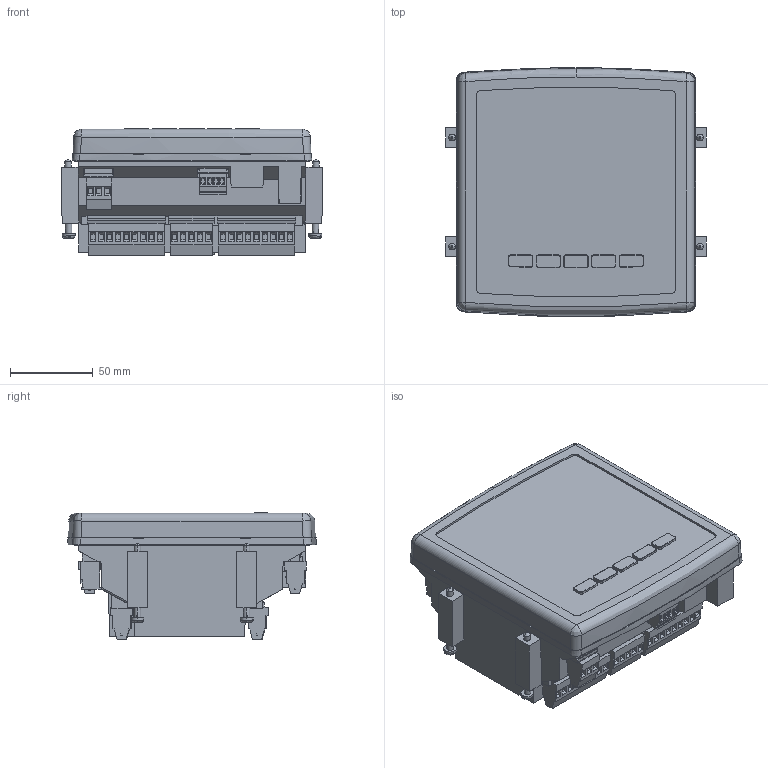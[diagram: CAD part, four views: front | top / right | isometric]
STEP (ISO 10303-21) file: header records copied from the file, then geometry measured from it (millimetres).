
FILE_DESCRIPTION (( 'STEP AP214' ), '1' );
FILE_NAME ('M4049 RGSR-24S-OG 144x144 85V-300V ACDC GRAFIK LCDLI TI REAKTIF GUC KONTROL ROLESI.STEP', '2022-12-05T11:42:13', ( '' ), ( '' ), 'SwSTEP 2.0', 'SolidWorks 2021', '' );
FILE_SCHEMA (( 'AUTOMOTIVE_DESIGN' ));
Products named in the file (1): M4049 RGSR-24S-OG 144x144 85V-300V ACDC GRAFIK LCDLI TI REAKTIF GUC KONTROL ROLESI
Bounding box: 157.93 x 150.32 x 76.65 mm (x, y, z)
Volume: 1211123.4 mm3; surface area: 132470 mm2
Topology: 1 solids, 22 shells, 4343 faces, 11877 edges, 7695 vertices
Faces by surface type: plane 3595, cylinder 455, cone 181, bspline 86, torus 26
Entity records: 141445 total; most frequent: CARTESIAN_POINT 31776, ORIENTED_EDGE 23724, DIRECTION 21093, EDGE_CURVE 11862, LINE 9801, VECTOR 9801, VERTEX_POINT 7695, AXIS2_PLACEMENT_3D 5646
